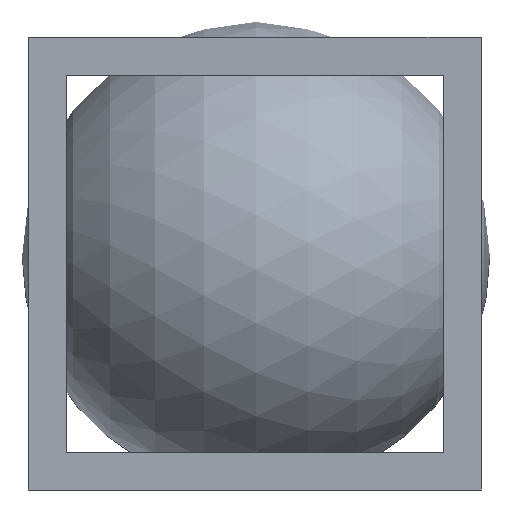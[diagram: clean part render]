
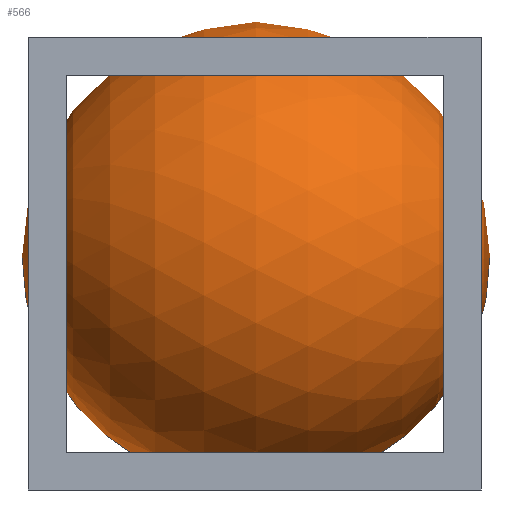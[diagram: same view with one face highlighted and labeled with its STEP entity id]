
A CAD part, front view. The second image highlights one B-rep face of the part: STEP entity #566.
In plain terms, the highlighted spherical face has radius 31 mm.
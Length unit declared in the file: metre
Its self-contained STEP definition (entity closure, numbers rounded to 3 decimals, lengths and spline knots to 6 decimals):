
#18=VERTEX_LOOP('',#288);
#19=SPHERICAL_SURFACE('',#624,0.031);
#288=VERTEX_POINT('',#911);
#505=FACE_BOUND('',#18,.T.);
#566=ADVANCED_FACE('',(#505),#19,.T.);
#624=AXIS2_PLACEMENT_3D('',#910,#762,#763);
#762=DIRECTION('',(-1.,0.,0.));
#763=DIRECTION('',(0.,0.,-1.));
#910=CARTESIAN_POINT('',(0.,0.,0.));
#911=CARTESIAN_POINT('',(0.031,0.,0.));
